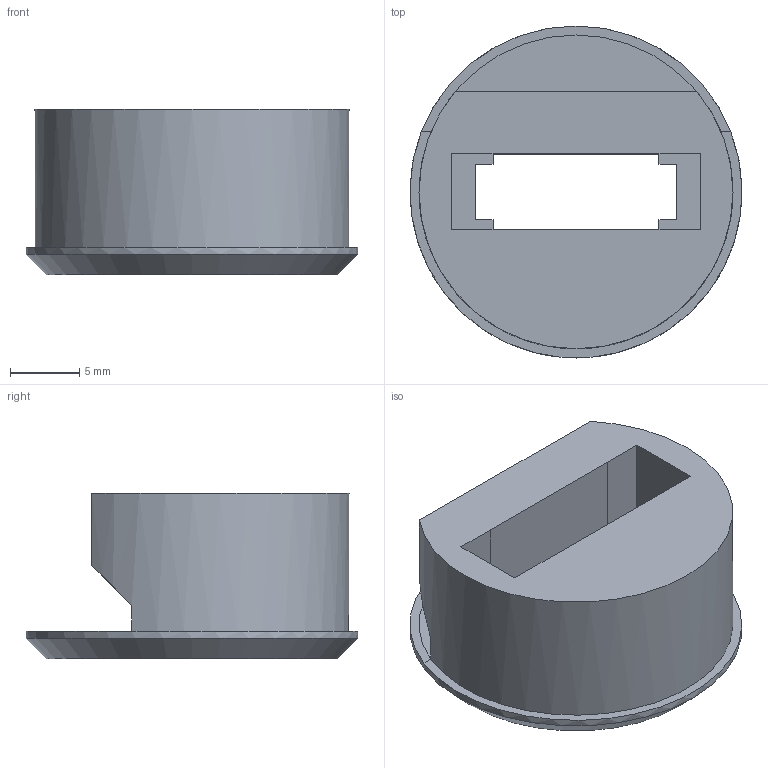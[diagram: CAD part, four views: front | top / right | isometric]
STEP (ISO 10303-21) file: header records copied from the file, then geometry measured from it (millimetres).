
FILE_DESCRIPTION(('FreeCAD Model'),'2;1');
FILE_NAME('Open CASCADE Shape Model','2026-01-25T17:12:17',(''),(''), 'Open CASCADE STEP processor 7.8','FreeCAD','Unknown');
FILE_SCHEMA(('AUTOMOTIVE_DESIGN { 1 0 10303 214 1 1 1 1 }'));
Length unit declared in the file: millimetre
Products named in the file (1): bottom_cap
Bounding box: 24 x 24 x 12 mm (x, y, z)
Volume: 3069.7 mm3; surface area: 2134.9 mm2
Topology: 1 solids, 1 shells, 33 faces, 81 edges, 50 vertices
Faces by surface type: plane 30, cylinder 2, cone 1
Full cylindrical faces by diameter (mm): 24 x1
Entity records: 976 total; most frequent: CARTESIAN_POINT 165, ORIENTED_EDGE 162, DIRECTION 160, EDGE_CURVE 81, LINE 70, VECTOR 70, VERTEX_POINT 50, AXIS2_PLACEMENT_3D 45
